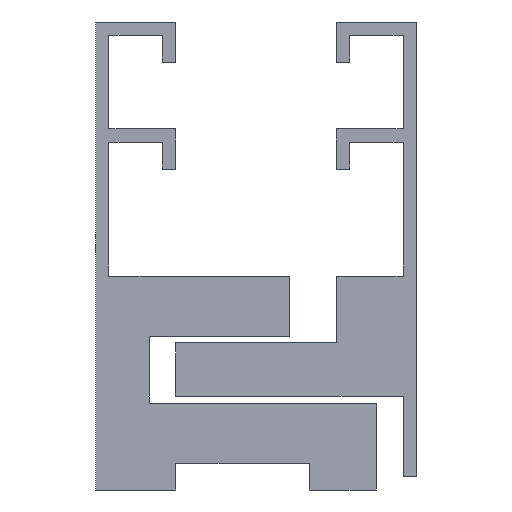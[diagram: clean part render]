
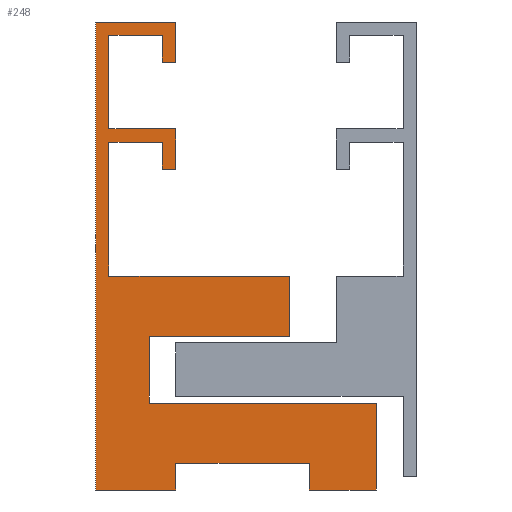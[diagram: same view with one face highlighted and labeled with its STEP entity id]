
A CAD part, left-side view. The second image highlights one B-rep face of the part: STEP entity #248.
In plain terms, the highlighted planar face has unit normal (-1, 0, 0).
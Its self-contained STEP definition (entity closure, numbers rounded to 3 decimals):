
#248=ADVANCED_FACE('',(#517),#518,.T.);
#517=FACE_OUTER_BOUND('',#802,.T.);
#518=PLANE('',#803);
#802=EDGE_LOOP('',(#1455,#1456,#1457,#1458,#1459,#1460,#1461,#1462,#1463,#1464,#1465,#1466,#1467,#1468,#1469,#1470,#1471,#1472,#1473,#1474,#1475,#1476,#1477,#1478,#1479,#1480,#1481,#1482));
#803=AXIS2_PLACEMENT_3D('',#1483,#1484,#1485);
#1455=ORIENTED_EDGE('',*,*,#1971,.T.);
#1456=ORIENTED_EDGE('',*,*,#1967,.T.);
#1457=ORIENTED_EDGE('',*,*,#1963,.T.);
#1458=ORIENTED_EDGE('',*,*,#1959,.T.);
#1459=ORIENTED_EDGE('',*,*,#1955,.T.);
#1460=ORIENTED_EDGE('',*,*,#1951,.T.);
#1461=ORIENTED_EDGE('',*,*,#1947,.T.);
#1462=ORIENTED_EDGE('',*,*,#1943,.T.);
#1463=ORIENTED_EDGE('',*,*,#1939,.T.);
#1464=ORIENTED_EDGE('',*,*,#1935,.T.);
#1465=ORIENTED_EDGE('',*,*,#1931,.T.);
#1466=ORIENTED_EDGE('',*,*,#1927,.T.);
#1467=ORIENTED_EDGE('',*,*,#1923,.T.);
#1468=ORIENTED_EDGE('',*,*,#1919,.T.);
#1469=ORIENTED_EDGE('',*,*,#1915,.T.);
#1470=ORIENTED_EDGE('',*,*,#1911,.T.);
#1471=ORIENTED_EDGE('',*,*,#1907,.T.);
#1472=ORIENTED_EDGE('',*,*,#1773,.T.);
#1473=ORIENTED_EDGE('',*,*,#1826,.T.);
#1474=ORIENTED_EDGE('',*,*,#1815,.T.);
#1475=ORIENTED_EDGE('',*,*,#1829,.F.);
#1476=ORIENTED_EDGE('',*,*,#1839,.T.);
#1477=ORIENTED_EDGE('',*,*,#1836,.T.);
#1478=ORIENTED_EDGE('',*,*,#1903,.T.);
#1479=ORIENTED_EDGE('',*,*,#1899,.T.);
#1480=ORIENTED_EDGE('',*,*,#1895,.T.);
#1481=ORIENTED_EDGE('',*,*,#1891,.T.);
#1482=ORIENTED_EDGE('',*,*,#1887,.T.);
#1483=CARTESIAN_POINT('',(0.0,5.685,15.571));
#1484=DIRECTION('',(-1.0,0.0,0.0));
#1485=DIRECTION('',(0.0,0.0,1.0));
#1773=EDGE_CURVE('',#2133,#2131,#2134,.T.);
#1815=EDGE_CURVE('',#2203,#2201,#2204,.T.);
#1826=EDGE_CURVE('',#2131,#2203,#2217,.T.);
#1829=EDGE_CURVE('',#2219,#2201,#2222,.T.);
#1836=EDGE_CURVE('',#2232,#2230,#2233,.T.);
#1839=EDGE_CURVE('',#2219,#2232,#2236,.T.);
#1887=EDGE_CURVE('',#2304,#2302,#2305,.T.);
#1891=EDGE_CURVE('',#2310,#2304,#2311,.T.);
#1895=EDGE_CURVE('',#2316,#2310,#2317,.T.);
#1899=EDGE_CURVE('',#2322,#2316,#2323,.T.);
#1903=EDGE_CURVE('',#2230,#2322,#2327,.T.);
#1907=EDGE_CURVE('',#2332,#2133,#2333,.T.);
#1911=EDGE_CURVE('',#2338,#2332,#2339,.T.);
#1915=EDGE_CURVE('',#2344,#2338,#2345,.T.);
#1919=EDGE_CURVE('',#2350,#2344,#2351,.T.);
#1923=EDGE_CURVE('',#2356,#2350,#2357,.T.);
#1927=EDGE_CURVE('',#2362,#2356,#2363,.T.);
#1931=EDGE_CURVE('',#2368,#2362,#2369,.T.);
#1935=EDGE_CURVE('',#2374,#2368,#2375,.T.);
#1939=EDGE_CURVE('',#2380,#2374,#2381,.T.);
#1943=EDGE_CURVE('',#2386,#2380,#2387,.T.);
#1947=EDGE_CURVE('',#2392,#2386,#2393,.T.);
#1951=EDGE_CURVE('',#2398,#2392,#2399,.T.);
#1955=EDGE_CURVE('',#2404,#2398,#2405,.T.);
#1959=EDGE_CURVE('',#2410,#2404,#2411,.T.);
#1963=EDGE_CURVE('',#2416,#2410,#2417,.T.);
#1967=EDGE_CURVE('',#2422,#2416,#2423,.T.);
#1971=EDGE_CURVE('',#2302,#2422,#2427,.T.);
#2131=VERTEX_POINT('',#2655);
#2133=VERTEX_POINT('',#2657);
#2134=LINE('',#2658,#2659);
#2201=VERTEX_POINT('',#2745);
#2203=VERTEX_POINT('',#2747);
#2204=LINE('',#2748,#2749);
#2217=LINE('',#2765,#2766);
#2219=VERTEX_POINT('',#2768);
#2222=LINE('',#2771,#2772);
#2230=VERTEX_POINT('',#2784);
#2232=VERTEX_POINT('',#2787);
#2233=LINE('',#2788,#2789);
#2236=LINE('',#2793,#2794);
#2302=VERTEX_POINT('',#2878);
#2304=VERTEX_POINT('',#2881);
#2305=LINE('',#2882,#2883);
#2310=VERTEX_POINT('',#2890);
#2311=LINE('',#2891,#2892);
#2316=VERTEX_POINT('',#2899);
#2317=LINE('',#2900,#2901);
#2322=VERTEX_POINT('',#2908);
#2323=LINE('',#2909,#2910);
#2327=LINE('',#2916,#2917);
#2332=VERTEX_POINT('',#2923);
#2333=LINE('',#2924,#2925);
#2338=VERTEX_POINT('',#2932);
#2339=LINE('',#2933,#2934);
#2344=VERTEX_POINT('',#2941);
#2345=LINE('',#2942,#2943);
#2350=VERTEX_POINT('',#2950);
#2351=LINE('',#2951,#2952);
#2356=VERTEX_POINT('',#2959);
#2357=LINE('',#2960,#2961);
#2362=VERTEX_POINT('',#2968);
#2363=LINE('',#2969,#2970);
#2368=VERTEX_POINT('',#2977);
#2369=LINE('',#2978,#2979);
#2374=VERTEX_POINT('',#2986);
#2375=LINE('',#2987,#2988);
#2380=VERTEX_POINT('',#2995);
#2381=LINE('',#2996,#2997);
#2386=VERTEX_POINT('',#3004);
#2387=LINE('',#3005,#3006);
#2392=VERTEX_POINT('',#3013);
#2393=LINE('',#3014,#3015);
#2398=VERTEX_POINT('',#3022);
#2399=LINE('',#3023,#3024);
#2404=VERTEX_POINT('',#3031);
#2405=LINE('',#3032,#3033);
#2410=VERTEX_POINT('',#3040);
#2411=LINE('',#3041,#3042);
#2416=VERTEX_POINT('',#3049);
#2417=LINE('',#3050,#3051);
#2422=VERTEX_POINT('',#3058);
#2423=LINE('',#3059,#3060);
#2427=LINE('',#3066,#3067);
#2655=CARTESIAN_POINT('',(0.0,11.0,33.995));
#2657=CARTESIAN_POINT('',(0.0,11.0,27.0));
#2658=CARTESIAN_POINT('',(0.0,11.0,27.0));
#2659=VECTOR('',#3307,1.0);
#2745=CARTESIAN_POINT('',(0.0,10.995,33.997));
#2747=CARTESIAN_POINT('',(0.0,10.995,33.995));
#2748=CARTESIAN_POINT('',(0.0,10.995,33.995));
#2749=VECTOR('',#3372,1.0);
#2765=CARTESIAN_POINT('',(0.0,11.0,33.995));
#2766=VECTOR('',#3385,1.0);
#2768=CARTESIAN_POINT('',(0.0,11.0,33.997));
#2771=CARTESIAN_POINT('',(0.0,11.0,33.997));
#2772=VECTOR('',#3389,1.0);
#2784=CARTESIAN_POINT('',(0.0,7.,34.0));
#2787=CARTESIAN_POINT('',(0.0,11.0,34.0));
#2788=CARTESIAN_POINT('',(0.0,11.0,34.0));
#2789=VECTOR('',#3395,1.0);
#2793=CARTESIAN_POINT('',(0.0,11.0,27.0));
#2794=VECTOR('',#3397,1.0);
#2878=CARTESIAN_POINT('',(0.0,12.0,0.0));
#2881=CARTESIAN_POINT('',(0.0,12.0,35.0));
#2882=CARTESIAN_POINT('',(0.0,12.0,35.0));
#2883=VECTOR('',#3453,1.0);
#2890=CARTESIAN_POINT('',(0.0,6.,35.0));
#2891=CARTESIAN_POINT('',(0.0,6.,35.0));
#2892=VECTOR('',#3456,1.0);
#2899=CARTESIAN_POINT('',(0.0,6.,32.0));
#2900=CARTESIAN_POINT('',(0.0,6.,32.0));
#2901=VECTOR('',#3459,1.0);
#2908=CARTESIAN_POINT('',(0.0,7.,32.0));
#2909=CARTESIAN_POINT('',(0.0,7.,32.0));
#2910=VECTOR('',#3462,1.0);
#2916=CARTESIAN_POINT('',(0.0,7.,34.0));
#2917=VECTOR('',#3465,1.0);
#2923=CARTESIAN_POINT('',(0.0,6.,27.0));
#2924=CARTESIAN_POINT('',(0.0,6.,27.0));
#2925=VECTOR('',#3467,1.0);
#2932=CARTESIAN_POINT('',(0.0,6.,24.0));
#2933=CARTESIAN_POINT('',(0.0,6.,24.0));
#2934=VECTOR('',#3470,1.0);
#2941=CARTESIAN_POINT('',(0.0,7.,24.0));
#2942=CARTESIAN_POINT('',(0.0,7.,24.0));
#2943=VECTOR('',#3473,1.0);
#2950=CARTESIAN_POINT('',(0.0,7.,26.0));
#2951=CARTESIAN_POINT('',(0.0,7.,26.0));
#2952=VECTOR('',#3476,1.0);
#2959=CARTESIAN_POINT('',(0.0,11.0,26.0));
#2960=CARTESIAN_POINT('',(0.0,11.0,26.0));
#2961=VECTOR('',#3479,1.0);
#2968=CARTESIAN_POINT('',(0.0,11.0,16.0));
#2969=CARTESIAN_POINT('',(0.0,11.0,16.0));
#2970=VECTOR('',#3482,1.0);
#2977=CARTESIAN_POINT('',(0.0,-2.5,16.0));
#2978=CARTESIAN_POINT('',(0.0,-2.5,16.0));
#2979=VECTOR('',#3485,1.0);
#2986=CARTESIAN_POINT('',(0.0,-2.5,11.5));
#2987=CARTESIAN_POINT('',(0.0,-2.5,11.5));
#2988=VECTOR('',#3488,1.0);
#2995=CARTESIAN_POINT('',(0.0,8.,11.5));
#2996=CARTESIAN_POINT('',(0.0,8.,11.5));
#2997=VECTOR('',#3491,1.0);
#3004=CARTESIAN_POINT('',(0.0,8.,6.5));
#3005=CARTESIAN_POINT('',(0.0,8.,6.5));
#3006=VECTOR('',#3494,1.0);
#3013=CARTESIAN_POINT('',(0.0,-9.,6.5));
#3014=CARTESIAN_POINT('',(0.0,-9.,6.5));
#3015=VECTOR('',#3497,1.0);
#3022=CARTESIAN_POINT('',(0.0,-9.,0.0));
#3023=CARTESIAN_POINT('',(0.0,-9.,0.0));
#3024=VECTOR('',#3500,1.0);
#3031=CARTESIAN_POINT('',(0.0,-4.,0.0));
#3032=CARTESIAN_POINT('',(0.0,-3.5,0.0));
#3033=VECTOR('',#3503,1.0);
#3040=CARTESIAN_POINT('',(0.0,-4.,2.0));
#3041=CARTESIAN_POINT('',(0.0,-4.,2.0));
#3042=VECTOR('',#3506,1.0);
#3049=CARTESIAN_POINT('',(0.0,6.,2.0));
#3050=CARTESIAN_POINT('',(0.0,6.,2.0));
#3051=VECTOR('',#3509,1.0);
#3058=CARTESIAN_POINT('',(0.0,6.,0.0));
#3059=CARTESIAN_POINT('',(0.0,6.,0.0));
#3060=VECTOR('',#3512,1.0);
#3066=CARTESIAN_POINT('',(0.0,12.0,0.0));
#3067=VECTOR('',#3515,1.0);
#3307=DIRECTION('',(0.0,0.0,1.0));
#3372=DIRECTION('',(0.0,0.,1.0));
#3385=DIRECTION('',(0.0,-1.0,0.));
#3389=DIRECTION('',(0.0,-1.0,0.));
#3395=DIRECTION('',(0.0,-1.0,0.0));
#3397=DIRECTION('',(0.0,0.0,1.0));
#3453=DIRECTION('',(0.0,0.0,-1.0));
#3456=DIRECTION('',(0.0,1.0,0.0));
#3459=DIRECTION('',(0.0,0.0,1.0));
#3462=DIRECTION('',(0.0,-1.0,0.));
#3465=DIRECTION('',(0.0,0.0,-1.0));
#3467=DIRECTION('',(0.0,1.0,0.0));
#3470=DIRECTION('',(0.0,0.0,1.0));
#3473=DIRECTION('',(0.0,-1.0,0.0));
#3476=DIRECTION('',(0.0,0.0,-1.0));
#3479=DIRECTION('',(0.0,-1.0,0.0));
#3482=DIRECTION('',(0.0,0.0,1.0));
#3485=DIRECTION('',(0.0,1.0,0.0));
#3488=DIRECTION('',(0.0,0.0,1.0));
#3491=DIRECTION('',(0.0,-1.0,0.0));
#3494=DIRECTION('',(0.0,0.0,1.0));
#3497=DIRECTION('',(0.0,1.0,0.0));
#3500=DIRECTION('',(0.0,0.0,1.0));
#3503=DIRECTION('',(0.0,-1.0,0.0));
#3506=DIRECTION('',(0.0,0.0,-1.0));
#3509=DIRECTION('',(0.0,-1.0,0.0));
#3512=DIRECTION('',(0.0,0.0,1.0));
#3515=DIRECTION('',(0.0,-1.0,0.0));
